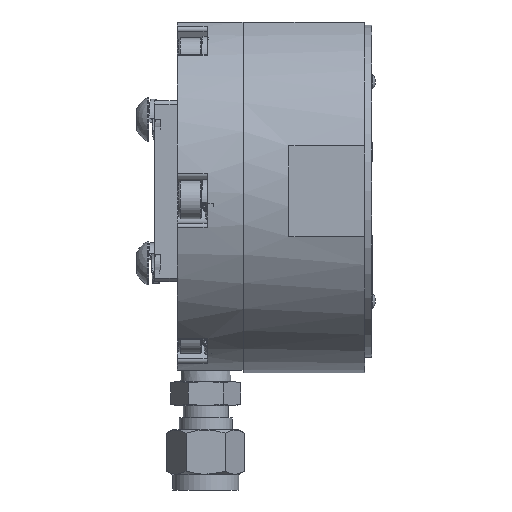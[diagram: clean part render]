
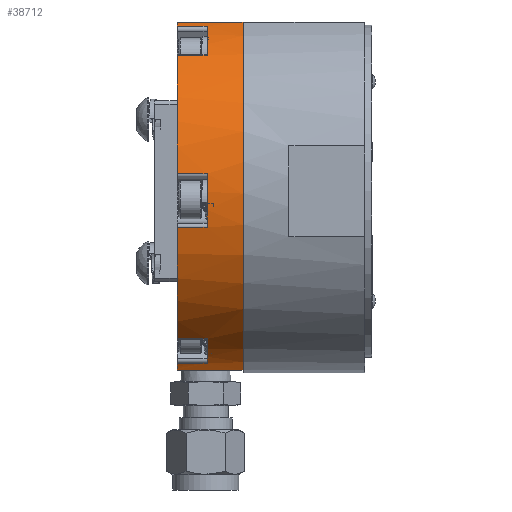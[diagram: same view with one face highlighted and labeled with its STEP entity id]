
A CAD part, left-side view. The second image highlights one B-rep face of the part: STEP entity #38712.
In plain terms, the highlighted cylindrical face has radius 38.1 mm (diameter 76.2 mm), a partial arc.
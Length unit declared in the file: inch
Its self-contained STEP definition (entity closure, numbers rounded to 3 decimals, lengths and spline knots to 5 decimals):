
#120 = DIRECTION ( 'NONE',  ( -1., 0., 0. ) ) ;
#384 = DIRECTION ( 'NONE',  ( 0., -1., 0. ) ) ;
#495 = CARTESIAN_POINT ( 'NONE',  ( 0., 1.549, 0. ) ) ;
#563 = CARTESIAN_POINT ( 'NONE',  ( 0., 1.302, 0. ) ) ;
#623 = DIRECTION ( 'NONE',  ( 0., -1., 0. ) ) ;
#988 = DIRECTION ( 'NONE',  ( 0., 1., 0. ) ) ;
#1258 = VECTOR ( 'NONE', #5819, 39.37008 ) ;
#1893 = DIRECTION ( 'NONE',  ( 0., -1., 0. ) ) ;
#2011 = CARTESIAN_POINT ( 'NONE',  ( -1.46984, 1.549, -0.29927 ) ) ;
#2087 = AXIS2_PLACEMENT_3D ( 'NONE', #563, #12728, #25371 ) ;
#2385 = ORIENTED_EDGE ( 'NONE', *, *, #24594, .T. ) ;
#2662 = ORIENTED_EDGE ( 'NONE', *, *, #7518, .T. ) ;
#2709 = ORIENTED_EDGE ( 'NONE', *, *, #8514, .F. ) ;
#3014 = CARTESIAN_POINT ( 'NONE',  ( -0.87124, 1.549, -1.22104 ) ) ;
#3735 = DIRECTION ( 'NONE',  ( 0., -1., 0. ) ) ;
#3974 = AXIS2_PLACEMENT_3D ( 'NONE', #495, #37507, #28173 ) ;
#4559 = EDGE_CURVE ( 'NONE', #10906, #33858, #30330, .T. ) ;
#4864 = VERTEX_POINT ( 'NONE', #35767 ) ;
#5062 = ORIENTED_EDGE ( 'NONE', *, *, #4559, .T. ) ;
#5117 = CARTESIAN_POINT ( 'NONE',  ( 0., 1.549, 0. ) ) ;
#5155 = VECTOR ( 'NONE', #19497, 39.37008 ) ;
#5630 = CARTESIAN_POINT ( 'NONE',  ( -1.49307, 0.985, 0.14399 ) ) ;
#5819 = DIRECTION ( 'NONE',  ( 0., 1., 0. ) ) ;
#5964 = CARTESIAN_POINT ( 'NONE',  ( -0.53852, 1.005, 1.4 ) ) ;
#5997 = VERTEX_POINT ( 'NONE', #23513 ) ;
#6276 = ORIENTED_EDGE ( 'NONE', *, *, #18168, .T. ) ;
#6345 = EDGE_CURVE ( 'NONE', #8798, #26676, #11500, .T. ) ;
#6395 = EDGE_CURVE ( 'NONE', #21763, #12867, #34157, .T. ) ;
#6408 = VECTOR ( 'NONE', #24568, 39.37008 ) ;
#6628 = LINE ( 'NONE', #7211, #5155 ) ;
#7211 = CARTESIAN_POINT ( 'NONE',  ( -0.9941, 0.985, 1.12328 ) ) ;
#7374 = VERTEX_POINT ( 'NONE', #2011 ) ;
#7518 = EDGE_CURVE ( 'NONE', #12867, #11893, #24352, .T. ) ;
#7848 = LINE ( 'NONE', #36528, #6408 ) ;
#8194 = EDGE_CURVE ( 'NONE', #5997, #8355, #25129, .T. ) ;
#8304 = VECTOR ( 'NONE', #21520, 39.37008 ) ;
#8355 = VERTEX_POINT ( 'NONE', #37037 ) ;
#8430 = CARTESIAN_POINT ( 'NONE',  ( -0.47574, 0.985, -1.42256 ) ) ;
#8514 = EDGE_CURVE ( 'NONE', #29166, #37889, #7848, .T. ) ;
#8798 = VERTEX_POINT ( 'NONE', #38351 ) ;
#9606 = ORIENTED_EDGE ( 'NONE', *, *, #13706, .T. ) ;
#10798 = ORIENTED_EDGE ( 'NONE', *, *, #6345, .T. ) ;
#10906 = VERTEX_POINT ( 'NONE', #3014 ) ;
#11120 = EDGE_CURVE ( 'NONE', #33858, #8798, #23314, .T. ) ;
#11500 = LINE ( 'NONE', #8430, #1258 ) ;
#11580 = ORIENTED_EDGE ( 'NONE', *, *, #6395, .T. ) ;
#11893 = VERTEX_POINT ( 'NONE', #28151 ) ;
#12074 = EDGE_CURVE ( 'NONE', #11893, #15164, #23658, .T. ) ;
#12200 = CARTESIAN_POINT ( 'NONE',  ( -1.46984, 0.985, -0.29927 ) ) ;
#12464 = CARTESIAN_POINT ( 'NONE',  ( 0., 1.549, 0. ) ) ;
#12728 = DIRECTION ( 'NONE',  ( 0., -1., 0. ) ) ;
#12867 = VERTEX_POINT ( 'NONE', #33367 ) ;
#12910 = AXIS2_PLACEMENT_3D ( 'NONE', #20701, #23937, #23730 ) ;
#13072 = ORIENTED_EDGE ( 'NONE', *, *, #13206, .T. ) ;
#13206 = EDGE_CURVE ( 'NONE', #15164, #7374, #15989, .T. ) ;
#13353 = ORIENTED_EDGE ( 'NONE', *, *, #12074, .T. ) ;
#13459 = ORIENTED_EDGE ( 'NONE', *, *, #11120, .T. ) ;
#13706 = EDGE_CURVE ( 'NONE', #4864, #38322, #25019, .T. ) ;
#14181 = VECTOR ( 'NONE', #24456, 39.37008 ) ;
#14260 = CIRCLE ( 'NONE', #21258, 1.5 ) ;
#14833 = CARTESIAN_POINT ( 'NONE',  ( -0.25, 1.005, -1.47902 ) ) ;
#14926 = CIRCLE ( 'NONE', #3974, 1.5 ) ;
#15164 = VERTEX_POINT ( 'NONE', #38872 ) ;
#15744 = EDGE_CURVE ( 'NONE', #7374, #10906, #14926, .T. ) ;
#15989 = LINE ( 'NONE', #12200, #14181 ) ;
#16429 = VECTOR ( 'NONE', #384, 39.37008 ) ;
#17750 = FACE_OUTER_BOUND ( 'NONE', #22061, .T. ) ;
#17890 = CARTESIAN_POINT ( 'NONE',  ( -0.9941, 1.302, 1.12328 ) ) ;
#17950 = CYLINDRICAL_SURFACE ( 'NONE', #38117, 1.5 ) ;
#18168 = EDGE_CURVE ( 'NONE', #38322, #21763, #6628, .T. ) ;
#18433 = DIRECTION ( 'NONE',  ( 0., -1., 0. ) ) ;
#18501 = ORIENTED_EDGE ( 'NONE', *, *, #28313, .F. ) ;
#18712 = ORIENTED_EDGE ( 'NONE', *, *, #26818, .T. ) ;
#19055 = DIRECTION ( 'NONE',  ( -1., 0., 0. ) ) ;
#19497 = DIRECTION ( 'NONE',  ( 0., 1., 0. ) ) ;
#19956 = VERTEX_POINT ( 'NONE', #5964 ) ;
#20701 = CARTESIAN_POINT ( 'NONE',  ( 0., 1.549, 0. ) ) ;
#21035 = VECTOR ( 'NONE', #24659, 39.37008 ) ;
#21258 = AXIS2_PLACEMENT_3D ( 'NONE', #24929, #37317, #120 ) ;
#21463 = CIRCLE ( 'NONE', #23409, 1.5 ) ;
#21520 = DIRECTION ( 'NONE',  ( 0., -1., 0. ) ) ;
#21763 = VERTEX_POINT ( 'NONE', #37020 ) ;
#21887 = AXIS2_PLACEMENT_3D ( 'NONE', #12464, #3735, #19055 ) ;
#22061 = EDGE_LOOP ( 'NONE', ( #22882, #34747, #2385, #9606, #6276, #11580, #2662, #13353, #13072, #33342, #5062, #13459, #10798, #18712, #2709, #18501 ) ) ;
#22882 = ORIENTED_EDGE ( 'NONE', *, *, #33140, .F. ) ;
#23314 = CIRCLE ( 'NONE', #2087, 1.5 ) ;
#23409 = AXIS2_PLACEMENT_3D ( 'NONE', #5117, #1893, #24049 ) ;
#23513 = CARTESIAN_POINT ( 'NONE',  ( -0.53852, 1.549, 1.4 ) ) ;
#23658 = CIRCLE ( 'NONE', #29492, 1.5 ) ;
#23730 = DIRECTION ( 'NONE',  ( -1., 0., 0. ) ) ;
#23937 = DIRECTION ( 'NONE',  ( 0., -1., 0. ) ) ;
#24049 = DIRECTION ( 'NONE',  ( -1., 0., 0. ) ) ;
#24267 = CARTESIAN_POINT ( 'NONE',  ( 0., 1.302, 0. ) ) ;
#24352 = LINE ( 'NONE', #5630, #8304 ) ;
#24456 = DIRECTION ( 'NONE',  ( 0., 1., 0. ) ) ;
#24568 = DIRECTION ( 'NONE',  ( 0., 1., 0. ) ) ;
#24594 = EDGE_CURVE ( 'NONE', #8355, #4864, #36766, .T. ) ;
#24659 = DIRECTION ( 'NONE',  ( 0., -1., 0. ) ) ;
#24929 = CARTESIAN_POINT ( 'NONE',  ( 0., 1.005, 0. ) ) ;
#25019 = CIRCLE ( 'NONE', #29548, 1.5 ) ;
#25033 = CARTESIAN_POINT ( 'NONE',  ( -0.53852, 0.985, 1.4 ) ) ;
#25129 = CIRCLE ( 'NONE', #21887, 1.5 ) ;
#25371 = DIRECTION ( 'NONE',  ( -1., 0., 0. ) ) ;
#25609 = LINE ( 'NONE', #25033, #26886 ) ;
#26676 = VERTEX_POINT ( 'NONE', #34822 ) ;
#26818 = EDGE_CURVE ( 'NONE', #26676, #37889, #21463, .T. ) ;
#26886 = VECTOR ( 'NONE', #623, 39.37008 ) ;
#28054 = CARTESIAN_POINT ( 'NONE',  ( -0.62183, 0.985, 1.36504 ) ) ;
#28151 = CARTESIAN_POINT ( 'NONE',  ( -1.49307, 1.302, 0.14399 ) ) ;
#28173 = DIRECTION ( 'NONE',  ( -1., 0., 0. ) ) ;
#28313 = EDGE_CURVE ( 'NONE', #19956, #29166, #14260, .T. ) ;
#29166 = VERTEX_POINT ( 'NONE', #14833 ) ;
#29492 = AXIS2_PLACEMENT_3D ( 'NONE', #24267, #18433, #33817 ) ;
#29548 = AXIS2_PLACEMENT_3D ( 'NONE', #33237, #30389, #36485 ) ;
#30317 = CARTESIAN_POINT ( 'NONE',  ( -0.25, 1.549, -1.47902 ) ) ;
#30330 = LINE ( 'NONE', #33588, #21035 ) ;
#30389 = DIRECTION ( 'NONE',  ( 0., -1., 0. ) ) ;
#33140 = EDGE_CURVE ( 'NONE', #5997, #19956, #25609, .T. ) ;
#33237 = CARTESIAN_POINT ( 'NONE',  ( 0., 1.302, 0. ) ) ;
#33342 = ORIENTED_EDGE ( 'NONE', *, *, #15744, .T. ) ;
#33367 = CARTESIAN_POINT ( 'NONE',  ( -1.49307, 1.549, 0.14399 ) ) ;
#33588 = CARTESIAN_POINT ( 'NONE',  ( -0.87124, 0.985, -1.22104 ) ) ;
#33817 = DIRECTION ( 'NONE',  ( -1., 0., 0. ) ) ;
#33858 = VERTEX_POINT ( 'NONE', #38890 ) ;
#34134 = DIRECTION ( 'NONE',  ( 1., 0., 0. ) ) ;
#34157 = CIRCLE ( 'NONE', #12910, 1.5 ) ;
#34747 = ORIENTED_EDGE ( 'NONE', *, *, #8194, .T. ) ;
#34822 = CARTESIAN_POINT ( 'NONE',  ( -0.47574, 1.549, -1.42256 ) ) ;
#35767 = CARTESIAN_POINT ( 'NONE',  ( -0.62183, 1.302, 1.36504 ) ) ;
#36485 = DIRECTION ( 'NONE',  ( -1., 0., 0. ) ) ;
#36528 = CARTESIAN_POINT ( 'NONE',  ( -0.25, 0.985, -1.47902 ) ) ;
#36766 = LINE ( 'NONE', #28054, #16429 ) ;
#37020 = CARTESIAN_POINT ( 'NONE',  ( -0.9941, 1.549, 1.12328 ) ) ;
#37037 = CARTESIAN_POINT ( 'NONE',  ( -0.62183, 1.549, 1.36504 ) ) ;
#37317 = DIRECTION ( 'NONE',  ( 0., -1., 0. ) ) ;
#37507 = DIRECTION ( 'NONE',  ( 0., -1., 0. ) ) ;
#37601 = CARTESIAN_POINT ( 'NONE',  ( 0., 0.985, 0. ) ) ;
#37889 = VERTEX_POINT ( 'NONE', #30317 ) ;
#38117 = AXIS2_PLACEMENT_3D ( 'NONE', #37601, #988, #34134 ) ;
#38322 = VERTEX_POINT ( 'NONE', #17890 ) ;
#38351 = CARTESIAN_POINT ( 'NONE',  ( -0.47574, 1.302, -1.42256 ) ) ;
#38712 = ADVANCED_FACE ( 'NONE', ( #17750 ), #17950, .T. ) ;
#38872 = CARTESIAN_POINT ( 'NONE',  ( -1.46984, 1.302, -0.29927 ) ) ;
#38890 = CARTESIAN_POINT ( 'NONE',  ( -0.87124, 1.302, -1.22104 ) ) ;
